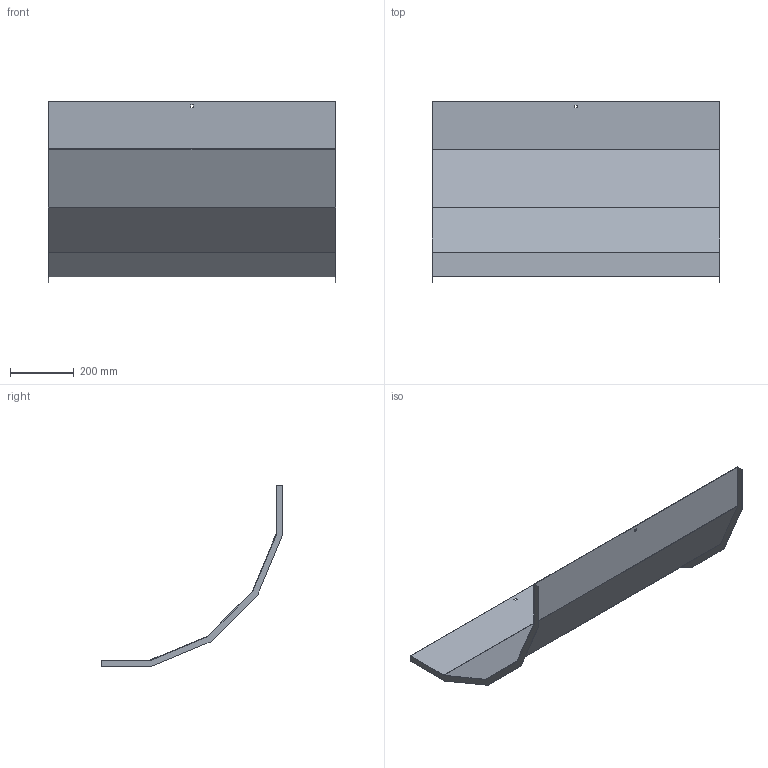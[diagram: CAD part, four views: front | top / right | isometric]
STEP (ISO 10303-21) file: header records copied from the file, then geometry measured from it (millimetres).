
FILE_DESCRIPTION (( 'STEP AP214' ), '1' );
FILE_NAME ('B2X30N5R900X.step', '2025-03-20T09:47:53', ( '' ), ( '' ), 'SwSTEP 2.0', 'SolidWorks 2023', '' );
FILE_SCHEMA (( 'AUTOMOTIVE_DESIGN' ));
Length unit declared in the file: millimetre
Products named in the file (1): B2X30N5R900X
Bounding box: 903 x 569.92 x 569.92 mm (x, y, z)
Volume: 1265327.5 mm3; surface area: 1692795.3 mm2
Topology: 1 solids, 1 shells, 34 faces, 96 edges, 64 vertices
Faces by surface type: plane 34
Entity records: 1111 total; most frequent: CARTESIAN_POINT 195, ORIENTED_EDGE 192, DIRECTION 166, VECTOR 96, EDGE_CURVE 96, LINE 96, VERTEX_POINT 64, EDGE_LOOP 38
